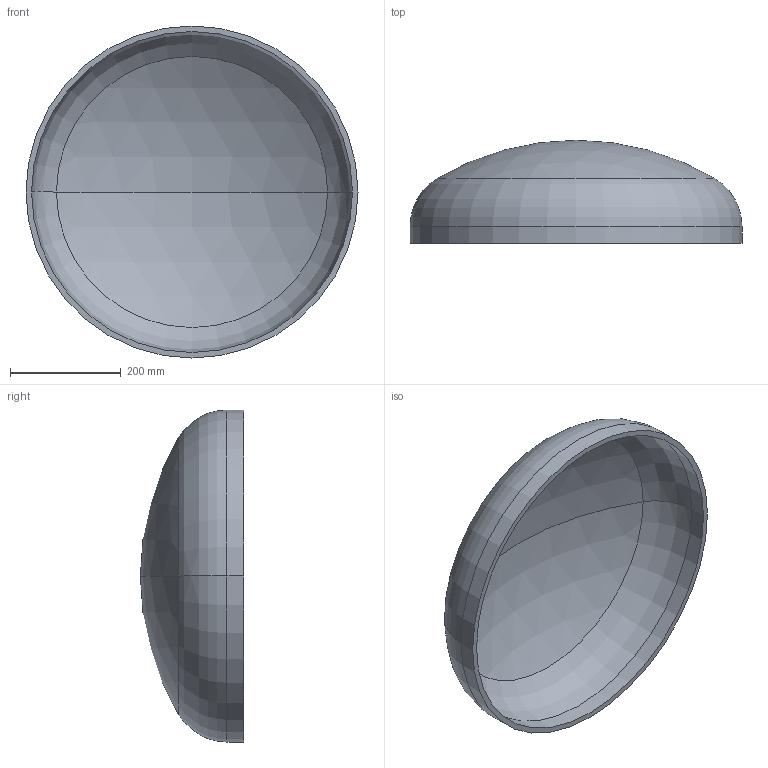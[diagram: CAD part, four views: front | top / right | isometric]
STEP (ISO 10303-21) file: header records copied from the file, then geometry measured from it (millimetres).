
FILE_DESCRIPTION (( 'STEP AP203' ), '1' );
FILE_NAME ('DIN 28013 Korbbogenform_-_Boden DIN 28013 - 600 x 30 - I - s=10.step', '2016-07-01T07:57:14', ( '' ), ( '' ), 'SwSTEP 2.0', 'SolidWorks 2013', '' );
FILE_SCHEMA (( 'CONFIG_CONTROL_DESIGN' ));
Length unit declared in the file: millimetre
Products named in the file (1): DIN 28013 Korbbogenform_-_Boden DIN 28013 - 600 x 30 - I - s=10
Bounding box: 600 x 186.32 x 600 mm (x, y, z)
Volume: 4383566.9 mm3; surface area: 895457.9 mm2
Topology: 1 solids, 1 shells, 13 faces, 24 edges, 14 vertices
Faces by surface type: torus 4, cylinder 4, sphere 4, plane 1
Entity records: 407 total; most frequent: DIRECTION 72, CARTESIAN_POINT 52, ORIENTED_EDGE 48, AXIS2_PLACEMENT_3D 34, EDGE_CURVE 24, CIRCLE 20, VERTEX_POINT 14, EDGE_LOOP 14
